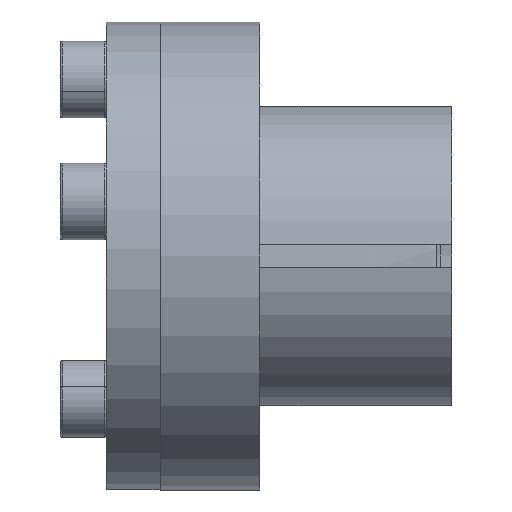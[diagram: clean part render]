
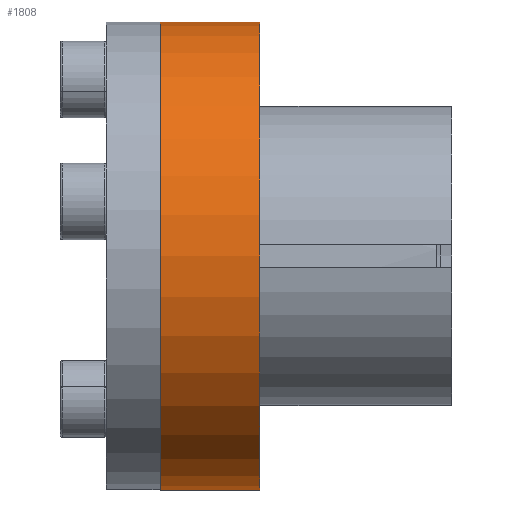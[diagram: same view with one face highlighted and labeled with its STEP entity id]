
A CAD part, front view. The second image highlights one B-rep face of the part: STEP entity #1808.
In plain terms, the highlighted cylindrical face has radius 30.5 mm (diameter 61 mm), a partial arc.
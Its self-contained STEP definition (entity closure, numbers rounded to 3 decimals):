
#39 = AXIS2_PLACEMENT_3D ( 'NONE', #117, #2735, #498 ) ;
#117 = CARTESIAN_POINT ( 'NONE',  ( -15.5, 0., 0. ) ) ;
#227 = LINE ( 'NONE', #454, #2235 ) ;
#413 = EDGE_LOOP ( 'NONE', ( #3479, #3351, #1523, #4072 ) ) ;
#454 = CARTESIAN_POINT ( 'NONE',  ( -22.5, 0., 30.5 ) ) ;
#498 = DIRECTION ( 'NONE',  ( 0., 0., 1. ) ) ;
#655 = AXIS2_PLACEMENT_3D ( 'NONE', #3034, #2987, #3073 ) ;
#726 = VERTEX_POINT ( 'NONE', #1838 ) ;
#963 = CARTESIAN_POINT ( 'NONE',  ( -2.5, 0., 0. ) ) ;
#1345 = DIRECTION ( 'NONE',  ( 0., 0., 1. ) ) ;
#1350 = CARTESIAN_POINT ( 'NONE',  ( -22.5, 0., -30.5 ) ) ;
#1357 = CARTESIAN_POINT ( 'NONE',  ( -2.5, 0., 30.5 ) ) ;
#1504 = VERTEX_POINT ( 'NONE', #1357 ) ;
#1523 = ORIENTED_EDGE ( 'NONE', *, *, #3240, .T. ) ;
#1531 = CYLINDRICAL_SURFACE ( 'NONE', #655, 30.5 ) ;
#1808 = ADVANCED_FACE ( 'NONE', ( #4450 ), #1531, .T. ) ;
#1838 = CARTESIAN_POINT ( 'NONE',  ( -15.5, 0., 30.5 ) ) ;
#2235 = VECTOR ( 'NONE', #4517, 1000. ) ;
#2335 = CARTESIAN_POINT ( 'NONE',  ( -15.5, 0., -30.5 ) ) ;
#2508 = VECTOR ( 'NONE', #3556, 1000. ) ;
#2627 = LINE ( 'NONE', #1350, #2508 ) ;
#2735 = DIRECTION ( 'NONE',  ( -1., 0., 0. ) ) ;
#2783 = AXIS2_PLACEMENT_3D ( 'NONE', #963, #3551, #1345 ) ;
#2863 = CIRCLE ( 'NONE', #2783, 30.5 ) ;
#2871 = EDGE_CURVE ( 'NONE', #3384, #1504, #2863, .T. ) ;
#2987 = DIRECTION ( 'NONE',  ( -1., 0., 0. ) ) ;
#3034 = CARTESIAN_POINT ( 'NONE',  ( -22.5, 0., 0. ) ) ;
#3073 = DIRECTION ( 'NONE',  ( 0., 0., 1. ) ) ;
#3144 = CARTESIAN_POINT ( 'NONE',  ( -2.5, 0., -30.5 ) ) ;
#3240 = EDGE_CURVE ( 'NONE', #1504, #726, #227, .T. ) ;
#3293 = CIRCLE ( 'NONE', #39, 30.5 ) ;
#3351 = ORIENTED_EDGE ( 'NONE', *, *, #2871, .T. ) ;
#3384 = VERTEX_POINT ( 'NONE', #3144 ) ;
#3479 = ORIENTED_EDGE ( 'NONE', *, *, #3862, .F. ) ;
#3551 = DIRECTION ( 'NONE',  ( -1., 0., 0. ) ) ;
#3556 = DIRECTION ( 'NONE',  ( -1., 0., 0. ) ) ;
#3664 = EDGE_CURVE ( 'NONE', #4481, #726, #3293, .T. ) ;
#3862 = EDGE_CURVE ( 'NONE', #3384, #4481, #2627, .T. ) ;
#4072 = ORIENTED_EDGE ( 'NONE', *, *, #3664, .F. ) ;
#4450 = FACE_OUTER_BOUND ( 'NONE', #413, .T. ) ;
#4481 = VERTEX_POINT ( 'NONE', #2335 ) ;
#4517 = DIRECTION ( 'NONE',  ( -1., 0., 0. ) ) ;
